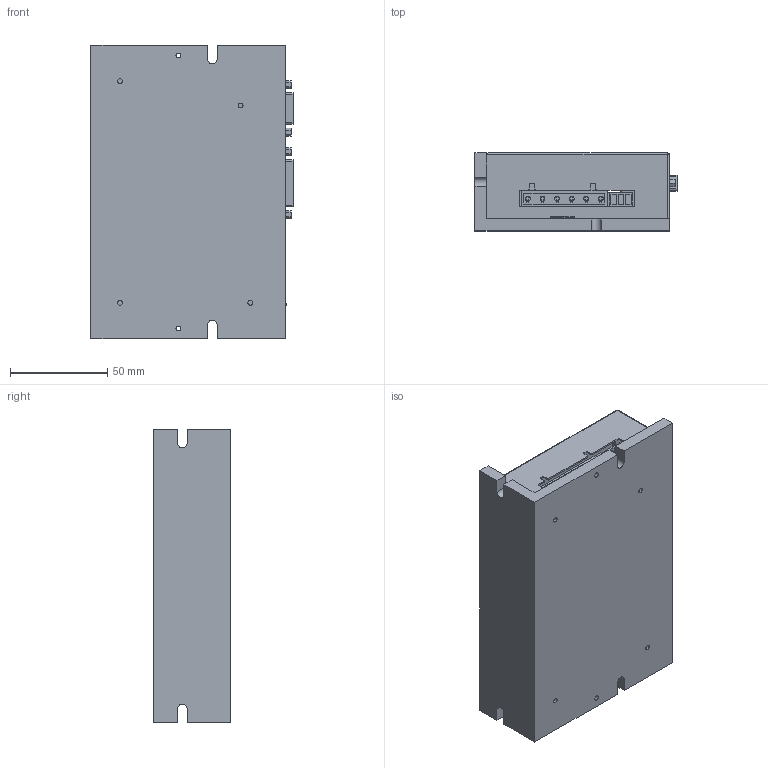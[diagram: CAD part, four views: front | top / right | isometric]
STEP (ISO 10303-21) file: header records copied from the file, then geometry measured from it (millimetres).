
FILE_DESCRIPTION((''),'2;1');
FILE_NAME('ASM0001_ASM','2019-12-02T',('shen'),(''),'PRO/ENGINEER BY PARAMETRIC TECHNOLOGY CORPORATION, 2011310','PRO/ENGINEER BY PARAMETRIC TECHNOLOGY CORPORATION, 2011310','');
FILE_SCHEMA(('CONFIG_CONTROL_DESIGN'));
Length unit declared in the file: millimetre
Products named in the file (22): LVSANREQI; DYAGONGLIBAN; 6PIN; 3PIN; PIN-2; 40PIN-2_ASM; DIANRONG222; MOS-1; DIYAGONGLIBAN_ASM; DIYAKONGZHIBAN; DB9WAN; DB26WAN; LED2; PIN-1; 40PIN-1_ASM; DCDC; 4PINKAIGUAN; DUANZI111; LAN; KONGZHIBAN_ASM; WAIZHAO; ASM0001_ASM
Assembly tree (111 placements, depth 4):
  ASM0001_ASM
    LVSANREQI
    DIYAGONGLIBAN_ASM
      DYAGONGLIBAN
      6PIN
      3PIN
      40PIN-2_ASM
        PIN-2  x40
      DIANRONG222  x5
      MOS-1  x9
    KONGZHIBAN_ASM
      DIYAKONGZHIBAN
      DB9WAN
      DB26WAN
      LED2
      40PIN-1_ASM
        PIN-1  x40
      DCDC
      4PINKAIGUAN
      DUANZI111
      LAN
    WAIZHAO
Bounding box: 104 x 40 x 151 mm (x, y, z)
Volume: 213610.4 mm3; surface area: 160679.5 mm2
Topology: 107 solids, 107 shells, 2753 faces, 6615 edges, 4392 vertices
Faces by surface type: plane 2321, cylinder 416, torus 10, sphere 6
Entity records: 27982 total; most frequent: DIRECTION 4905, CARTESIAN_POINT 4804, ORIENTED_EDGE 4414, EDGE_CURVE 2207, VECTOR 1775, LINE 1775, AXIS2_PLACEMENT_3D 1565, VERTEX_POINT 1464
